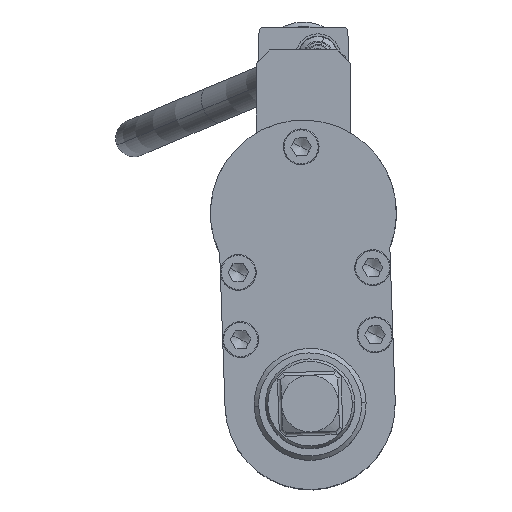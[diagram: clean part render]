
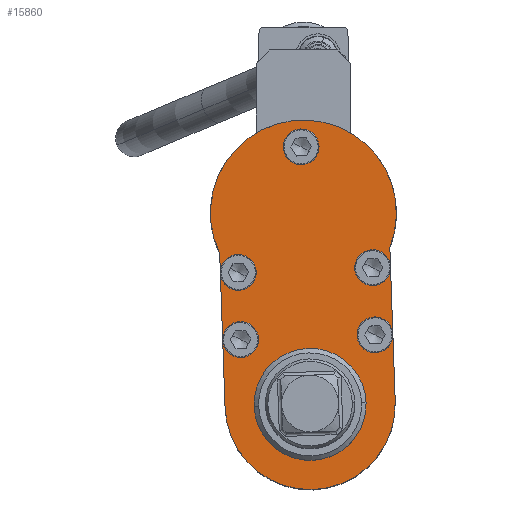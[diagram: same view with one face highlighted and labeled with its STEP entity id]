
A CAD part, top view. The second image highlights one B-rep face of the part: STEP entity #15860.
In plain terms, the highlighted planar face has unit normal (0, 0, 1).
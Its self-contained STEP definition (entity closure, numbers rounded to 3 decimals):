
#15716=AXIS2_PLACEMENT_3D('Plane Axis2P3D',#15713,#15714,#15715) ;
#15720=AXIS2_PLACEMENT_3D('Circle Axis2P3D',#15718,#15719,$) ;
#15736=AXIS2_PLACEMENT_3D('Circle Axis2P3D',#15734,#15735,$) ;
#15754=AXIS2_PLACEMENT_3D('Circle Axis2P3D',#15752,#15753,$) ;
#15763=AXIS2_PLACEMENT_3D('Circle Axis2P3D',#15761,#15762,$) ;
#15772=AXIS2_PLACEMENT_3D('Circle Axis2P3D',#15770,#15771,$) ;
#15781=AXIS2_PLACEMENT_3D('Circle Axis2P3D',#15779,#15780,$) ;
#15790=AXIS2_PLACEMENT_3D('Circle Axis2P3D',#15788,#15789,$) ;
#15799=AXIS2_PLACEMENT_3D('Circle Axis2P3D',#15797,#15798,$) ;
#15808=AXIS2_PLACEMENT_3D('Circle Axis2P3D',#15806,#15807,$) ;
#15817=AXIS2_PLACEMENT_3D('Circle Axis2P3D',#15815,#15816,$) ;
#15826=AXIS2_PLACEMENT_3D('Circle Axis2P3D',#15824,#15825,$) ;
#15835=AXIS2_PLACEMENT_3D('Circle Axis2P3D',#15833,#15834,$) ;
#15844=AXIS2_PLACEMENT_3D('Circle Axis2P3D',#15842,#15843,$) ;
#15853=AXIS2_PLACEMENT_3D('Circle Axis2P3D',#15851,#15852,$) ;
#15713=CARTESIAN_POINT('Axis2P3D Location',(2.984,-85.448,678.6)) ;
#15718=CARTESIAN_POINT('Axis2P3D Location',(2.984,-85.448,678.6)) ;
#15722=CARTESIAN_POINT('Vertex',(-34.993,-86.774,678.6)) ;
#15724=CARTESIAN_POINT('Vertex',(40.961,-84.122,678.6)) ;
#15727=CARTESIAN_POINT('Line Origine',(39.76,-49.733,678.6)) ;
#15731=CARTESIAN_POINT('Vertex',(38.559,-15.344,678.6)) ;
#15734=CARTESIAN_POINT('Axis2P3D Location',(0.,0.,678.6)) ;
#15738=CARTESIAN_POINT('Vertex',(-37.395,-17.997,678.6)) ;
#15741=CARTESIAN_POINT('Line Origine',(-36.194,-52.385,678.6)) ;
#15752=CARTESIAN_POINT('Axis2P3D Location',(-1.03,29.482,678.6)) ;
#15756=CARTESIAN_POINT('Vertex',(-5.22,31.585,678.6)) ;
#15758=CARTESIAN_POINT('Vertex',(3.161,27.379,678.6)) ;
#15761=CARTESIAN_POINT('Axis2P3D Location',(-1.03,29.482,678.6)) ;
#15770=CARTESIAN_POINT('Axis2P3D Location',(-28.045,-56.513,678.6)) ;
#15774=CARTESIAN_POINT('Vertex',(-32.235,-54.411,678.6)) ;
#15776=CARTESIAN_POINT('Vertex',(-23.855,-58.616,678.6)) ;
#15779=CARTESIAN_POINT('Axis2P3D Location',(-28.045,-56.513,678.6)) ;
#15788=CARTESIAN_POINT('Axis2P3D Location',(2.984,-85.448,678.6)) ;
#15792=CARTESIAN_POINT('Vertex',(27.969,-84.575,678.6)) ;
#15794=CARTESIAN_POINT('Vertex',(-22.001,-86.32,678.6)) ;
#15797=CARTESIAN_POINT('Axis2P3D Location',(2.984,-85.448,678.6)) ;
#15806=CARTESIAN_POINT('Axis2P3D Location',(31.919,-54.419,678.6)) ;
#15810=CARTESIAN_POINT('Vertex',(36.109,-56.522,678.6)) ;
#15812=CARTESIAN_POINT('Vertex',(27.729,-52.317,678.6)) ;
#15815=CARTESIAN_POINT('Axis2P3D Location',(31.919,-54.419,678.6)) ;
#15824=CARTESIAN_POINT('Axis2P3D Location',(-29.092,-26.531,678.6)) ;
#15828=CARTESIAN_POINT('Vertex',(-24.902,-28.634,678.6)) ;
#15830=CARTESIAN_POINT('Vertex',(-33.282,-24.429,678.6)) ;
#15833=CARTESIAN_POINT('Axis2P3D Location',(-29.092,-26.531,678.6)) ;
#15842=CARTESIAN_POINT('Axis2P3D Location',(30.872,-24.437,678.6)) ;
#15846=CARTESIAN_POINT('Vertex',(35.062,-26.54,678.6)) ;
#15848=CARTESIAN_POINT('Vertex',(26.682,-22.335,678.6)) ;
#15851=CARTESIAN_POINT('Axis2P3D Location',(30.872,-24.437,678.6)) ;
#15714=DIRECTION('Axis2P3D Direction',(0.,-0.,1.)) ;
#15715=DIRECTION('Axis2P3D XDirection',(0.999,0.035,0.)) ;
#15719=DIRECTION('Axis2P3D Direction',(0.,-0.,1.)) ;
#15728=DIRECTION('Vector Direction',(-0.035,0.999,0.)) ;
#15735=DIRECTION('Axis2P3D Direction',(0.,-0.,1.)) ;
#15742=DIRECTION('Vector Direction',(0.035,-0.999,0.)) ;
#15753=DIRECTION('Axis2P3D Direction',(0.,-0.,1.)) ;
#15762=DIRECTION('Axis2P3D Direction',(0.,-0.,1.)) ;
#15771=DIRECTION('Axis2P3D Direction',(0.,-0.,1.)) ;
#15780=DIRECTION('Axis2P3D Direction',(0.,-0.,1.)) ;
#15789=DIRECTION('Axis2P3D Direction',(0.,-0.,1.)) ;
#15798=DIRECTION('Axis2P3D Direction',(0.,-0.,1.)) ;
#15807=DIRECTION('Axis2P3D Direction',(0.,-0.,1.)) ;
#15816=DIRECTION('Axis2P3D Direction',(0.,-0.,1.)) ;
#15825=DIRECTION('Axis2P3D Direction',(0.,-0.,1.)) ;
#15834=DIRECTION('Axis2P3D Direction',(0.,-0.,1.)) ;
#15843=DIRECTION('Axis2P3D Direction',(0.,-0.,1.)) ;
#15852=DIRECTION('Axis2P3D Direction',(0.,-0.,1.)) ;
#15729=VECTOR('Line Direction',#15728,1.) ;
#15743=VECTOR('Line Direction',#15742,1.) ;
#15747=ORIENTED_EDGE('',*,*,#15726,.T.) ;
#15748=ORIENTED_EDGE('',*,*,#15733,.T.) ;
#15749=ORIENTED_EDGE('',*,*,#15740,.T.) ;
#15750=ORIENTED_EDGE('',*,*,#15745,.T.) ;
#15767=ORIENTED_EDGE('',*,*,#15760,.F.) ;
#15768=ORIENTED_EDGE('',*,*,#15765,.F.) ;
#15785=ORIENTED_EDGE('',*,*,#15778,.F.) ;
#15786=ORIENTED_EDGE('',*,*,#15783,.F.) ;
#15803=ORIENTED_EDGE('',*,*,#15796,.F.) ;
#15804=ORIENTED_EDGE('',*,*,#15801,.F.) ;
#15821=ORIENTED_EDGE('',*,*,#15814,.F.) ;
#15822=ORIENTED_EDGE('',*,*,#15819,.F.) ;
#15839=ORIENTED_EDGE('',*,*,#15832,.F.) ;
#15840=ORIENTED_EDGE('',*,*,#15837,.F.) ;
#15857=ORIENTED_EDGE('',*,*,#15850,.F.) ;
#15858=ORIENTED_EDGE('',*,*,#15855,.F.) ;
#15769=FACE_BOUND('',#15766,.T.) ;
#15787=FACE_BOUND('',#15784,.T.) ;
#15805=FACE_BOUND('',#15802,.T.) ;
#15823=FACE_BOUND('',#15820,.T.) ;
#15841=FACE_BOUND('',#15838,.T.) ;
#15859=FACE_BOUND('',#15856,.T.) ;
#15860=ADVANCED_FACE('AO3360.1\\AO3360_Gehauese.1\\Hauptk\X2\00F6\X0\rper',(#15751,#15769,#15787,#15805,#15823,#15841,#15859),#15717,.T.) ;
#15721=CIRCLE('generated circle',#15720,38.) ;
#15737=CIRCLE('generated circle',#15736,41.5) ;
#15755=CIRCLE('generated circle',#15754,4.688) ;
#15764=CIRCLE('generated circle',#15763,4.688) ;
#15773=CIRCLE('generated circle',#15772,4.688) ;
#15782=CIRCLE('generated circle',#15781,4.688) ;
#15791=CIRCLE('generated circle',#15790,25.) ;
#15800=CIRCLE('generated circle',#15799,25.) ;
#15809=CIRCLE('generated circle',#15808,4.688) ;
#15818=CIRCLE('generated circle',#15817,4.688) ;
#15827=CIRCLE('generated circle',#15826,4.688) ;
#15836=CIRCLE('generated circle',#15835,4.688) ;
#15845=CIRCLE('generated circle',#15844,4.688) ;
#15854=CIRCLE('generated circle',#15853,4.688) ;
#15726=EDGE_CURVE('',#15723,#15725,#15721,.T.) ;
#15733=EDGE_CURVE('',#15725,#15732,#15730,.T.) ;
#15740=EDGE_CURVE('',#15732,#15739,#15737,.T.) ;
#15745=EDGE_CURVE('',#15739,#15723,#15744,.T.) ;
#15760=EDGE_CURVE('',#15757,#15759,#15755,.T.) ;
#15765=EDGE_CURVE('',#15759,#15757,#15764,.T.) ;
#15778=EDGE_CURVE('',#15775,#15777,#15773,.T.) ;
#15783=EDGE_CURVE('',#15777,#15775,#15782,.T.) ;
#15796=EDGE_CURVE('',#15793,#15795,#15791,.T.) ;
#15801=EDGE_CURVE('',#15795,#15793,#15800,.T.) ;
#15814=EDGE_CURVE('',#15811,#15813,#15809,.T.) ;
#15819=EDGE_CURVE('',#15813,#15811,#15818,.T.) ;
#15832=EDGE_CURVE('',#15829,#15831,#15827,.T.) ;
#15837=EDGE_CURVE('',#15831,#15829,#15836,.T.) ;
#15850=EDGE_CURVE('',#15847,#15849,#15845,.T.) ;
#15855=EDGE_CURVE('',#15849,#15847,#15854,.T.) ;
#15746=EDGE_LOOP('',(#15747,#15748,#15749,#15750)) ;
#15766=EDGE_LOOP('',(#15767,#15768)) ;
#15784=EDGE_LOOP('',(#15785,#15786)) ;
#15802=EDGE_LOOP('',(#15803,#15804)) ;
#15820=EDGE_LOOP('',(#15821,#15822)) ;
#15838=EDGE_LOOP('',(#15839,#15840)) ;
#15856=EDGE_LOOP('',(#15857,#15858)) ;
#15751=FACE_OUTER_BOUND('',#15746,.T.) ;
#15730=LINE('Line',#15727,#15729) ;
#15744=LINE('Line',#15741,#15743) ;
#15717=PLANE('Plane',#15716) ;
#15723=VERTEX_POINT('',#15722) ;
#15725=VERTEX_POINT('',#15724) ;
#15732=VERTEX_POINT('',#15731) ;
#15739=VERTEX_POINT('',#15738) ;
#15757=VERTEX_POINT('',#15756) ;
#15759=VERTEX_POINT('',#15758) ;
#15775=VERTEX_POINT('',#15774) ;
#15777=VERTEX_POINT('',#15776) ;
#15793=VERTEX_POINT('',#15792) ;
#15795=VERTEX_POINT('',#15794) ;
#15811=VERTEX_POINT('',#15810) ;
#15813=VERTEX_POINT('',#15812) ;
#15829=VERTEX_POINT('',#15828) ;
#15831=VERTEX_POINT('',#15830) ;
#15847=VERTEX_POINT('',#15846) ;
#15849=VERTEX_POINT('',#15848) ;
